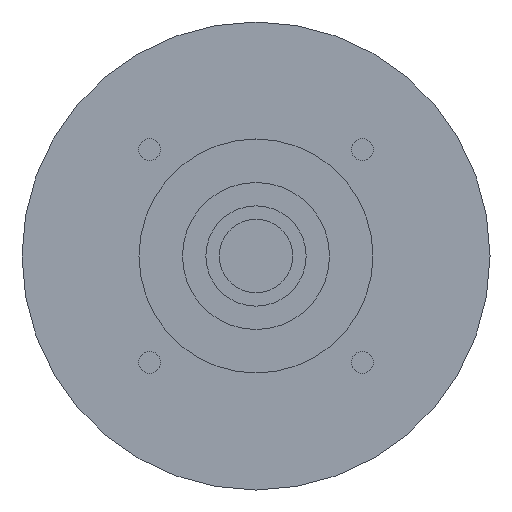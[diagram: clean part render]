
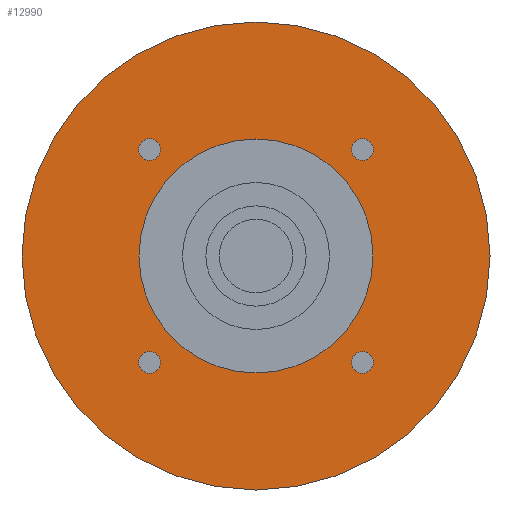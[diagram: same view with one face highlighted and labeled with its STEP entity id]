
A CAD part, left-side view. The second image highlights one B-rep face of the part: STEP entity #12990.
In plain terms, the highlighted planar face has unit normal (-1, 0, 0) as drawn and (0, 0, -1) by its records, which use the part's own axes.
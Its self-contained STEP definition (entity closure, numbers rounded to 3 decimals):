
#11830=CARTESIAN_POINT('',(-70.,0.,-54.7));
#11840=VERTEX_POINT('',#11830);
#11870=CARTESIAN_POINT('',(0.,0.,
-54.7));
#11880=DIRECTION('',(0.,0.,-1.));
#11890=DIRECTION('',(0.,-1.,0.));
#11900=AXIS2_PLACEMENT_3D('',#11870,#11880,#11890);
#11910=CIRCLE('',#11900,70.);
#11920=CARTESIAN_POINT('',(70.,0.,-54.7));
#11930=VERTEX_POINT('',#11920);
#11940=EDGE_CURVE('',#11840,#11930,#11910,.T.);
#12060=CARTESIAN_POINT('',(0.,0.,
-54.7));
#12070=DIRECTION('',(0.,0.,-1.));
#12080=DIRECTION('',(1.,0.,0.));
#12090=AXIS2_PLACEMENT_3D('',#12060,#12070,#12080);
#12100=PLANE('',#12090);
#12110=CARTESIAN_POINT('',(-31.82,31.82,-54.7));
#12120=DIRECTION('',(0.,0.,-1.));
#12130=DIRECTION('',(-1.,0.,0.));
#12140=AXIS2_PLACEMENT_3D('',#12110,#12120,#12130);
#12150=CIRCLE('',#12140,3.25);
#12160=CARTESIAN_POINT('',(-35.07,31.82,-54.7));
#12170=VERTEX_POINT('',#12160);
#12180=CARTESIAN_POINT('',(-28.57,31.82,-54.7));
#12190=VERTEX_POINT('',#12180);
#12200=EDGE_CURVE('',#12170,#12190,#12150,.T.);
#12210=ORIENTED_EDGE('',*,*,#12200,.F.);
#12220=EDGE_CURVE('',#12190,#12170,#12150,.T.);
#12230=ORIENTED_EDGE('',*,*,#12220,.F.);
#12240=EDGE_LOOP('',(#12230,#12210));
#12250=FACE_BOUND('',#12240,.T.);
#12260=CARTESIAN_POINT('',(-31.82,-31.82,-54.7));
#12270=DIRECTION('',(0.,0.,-1.));
#12280=DIRECTION('',(0.,-1.,0.));
#12290=AXIS2_PLACEMENT_3D('',#12260,#12270,#12280);
#12300=CIRCLE('',#12290,3.25);
#12310=CARTESIAN_POINT('',(-31.82,-35.07,-54.7));
#12320=VERTEX_POINT('',#12310);
#12330=CARTESIAN_POINT('',(-31.82,-28.57,-54.7));
#12340=VERTEX_POINT('',#12330);
#12350=EDGE_CURVE('',#12320,#12340,#12300,.T.);
#12360=ORIENTED_EDGE('',*,*,#12350,.F.);
#12370=EDGE_CURVE('',#12340,#12320,#12300,.T.);
#12380=ORIENTED_EDGE('',*,*,#12370,.F.);
#12390=EDGE_LOOP('',(#12380,#12360));
#12400=FACE_BOUND('',#12390,.T.);
#12410=CARTESIAN_POINT('',(0.,0.,
-54.7));
#12420=DIRECTION('',(0.,0.,1.));
#12430=DIRECTION('',(0.,1.,0.));
#12440=AXIS2_PLACEMENT_3D('',#12410,#12420,#12430);
#12450=CIRCLE('',#12440,35.);
#12460=CARTESIAN_POINT('',(-35.,0.,-54.7));
#12470=VERTEX_POINT('',#12460);
#12480=CARTESIAN_POINT('',(35.,0.,-54.7));
#12490=VERTEX_POINT('',#12480);
#12500=EDGE_CURVE('',#12470,#12490,#12450,.T.);
#12510=ORIENTED_EDGE('',*,*,#12500,.T.);
#12520=CARTESIAN_POINT('',(0.,35.,-54.7));
#12530=VERTEX_POINT('',#12520);
#12540=EDGE_CURVE('',#12530,#12470,#12450,.T.);
#12550=ORIENTED_EDGE('',*,*,#12540,.T.);
#12560=EDGE_CURVE('',#12490,#12530,#12450,.T.);
#12570=ORIENTED_EDGE('',*,*,#12560,.T.);
#12580=EDGE_LOOP('',(#12570,#12550,#12510));
#12590=FACE_BOUND('',#12580,.T.);
#12600=CARTESIAN_POINT('',(31.82,-31.82,-54.7));
#12610=DIRECTION('',(0.,0.,-1.));
#12620=DIRECTION('',(1.,0.,0.));
#12630=AXIS2_PLACEMENT_3D('',#12600,#12610,#12620);
#12640=CIRCLE('',#12630,3.25);
#12650=CARTESIAN_POINT('',(35.07,-31.82,-54.7));
#12660=VERTEX_POINT('',#12650);
#12670=CARTESIAN_POINT('',(28.57,-31.82,-54.7));
#12680=VERTEX_POINT('',#12670);
#12690=EDGE_CURVE('',#12660,#12680,#12640,.T.);
#12700=ORIENTED_EDGE('',*,*,#12690,.F.);
#12710=EDGE_CURVE('',#12680,#12660,#12640,.T.);
#12720=ORIENTED_EDGE('',*,*,#12710,.F.);
#12730=EDGE_LOOP('',(#12720,#12700));
#12740=FACE_BOUND('',#12730,.T.);
#12750=CARTESIAN_POINT('',(31.82,31.82,-54.7));
#12760=DIRECTION('',(0.,0.,-1.));
#12770=DIRECTION('',(0.,1.,0.));
#12780=AXIS2_PLACEMENT_3D('',#12750,#12760,#12770);
#12790=CIRCLE('',#12780,3.25);
#12800=CARTESIAN_POINT('',(31.82,35.07,-54.7));
#12810=VERTEX_POINT('',#12800);
#12820=CARTESIAN_POINT('',(31.82,28.57,-54.7));
#12830=VERTEX_POINT('',#12820);
#12840=EDGE_CURVE('',#12810,#12830,#12790,.T.);
#12850=ORIENTED_EDGE('',*,*,#12840,.F.);
#12860=EDGE_CURVE('',#12830,#12810,#12790,.T.);
#12870=ORIENTED_EDGE('',*,*,#12860,.F.);
#12880=EDGE_LOOP('',(#12870,#12850));
#12890=FACE_BOUND('',#12880,.T.);
#12900=ORIENTED_EDGE('',*,*,#11940,.T.);
#12910=CARTESIAN_POINT('',(0.,-70.,-54.7));
#12920=VERTEX_POINT('',#12910);
#12930=EDGE_CURVE('',#12920,#11840,#11910,.T.);
#12940=ORIENTED_EDGE('',*,*,#12930,.T.);
#12950=EDGE_CURVE('',#11930,#12920,#11910,.T.);
#12960=ORIENTED_EDGE('',*,*,#12950,.T.);
#12970=EDGE_LOOP('',(#12960,#12940,#12900));
#12980=FACE_OUTER_BOUND('',#12970,.T.);
#12990=ADVANCED_FACE('',(#12250,#12400,#12590,#12740,#12890,#12980),
#12100,.T.);
